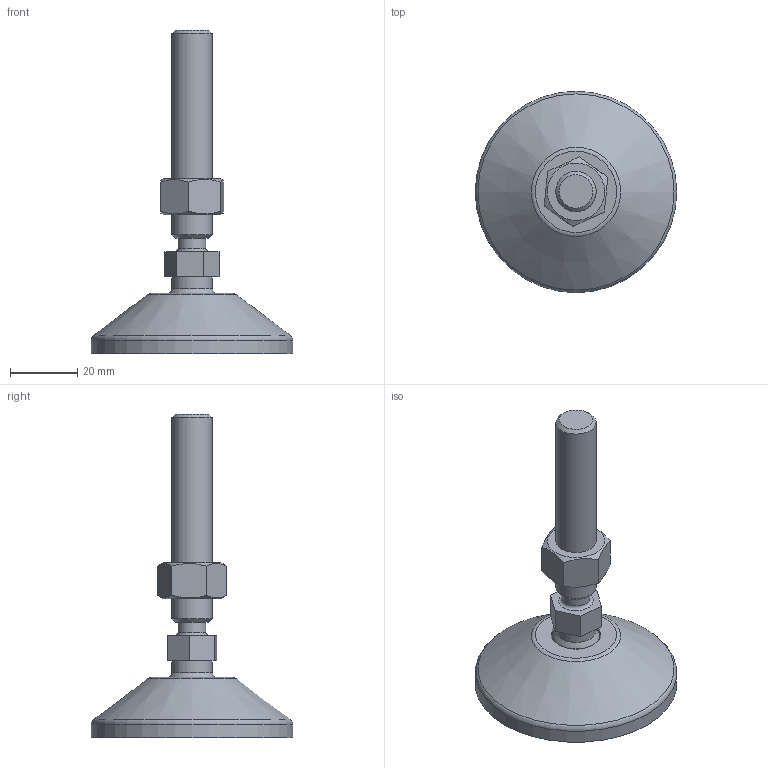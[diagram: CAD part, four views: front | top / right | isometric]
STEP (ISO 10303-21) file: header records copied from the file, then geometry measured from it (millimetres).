
FILE_DESCRIPTION(('STEP AP203'), '1');
FILE_NAME('栖闉罻', '', ('UNSPECIFIED'), ('UNSPECIFIED'), 'C3D Converter', 'C3D Toolkit', '');
FILE_SCHEMA(('CONFIG_CONTROL_DESIGN'));
Length unit declared in the file: millimetre
Products named in the file (4): A00020.112066; A00015.1060
Assembly tree (3 placements, depth 3):
  (unnamed)
    A00020.112066
      (unnamed)
    A00015.1060
Bounding box: 60 x 60 x 96.4 mm (x, y, z)
Volume: 32258.6 mm3; surface area: 14966.3 mm2
Topology: 3 solids, 3 shells, 153 faces, 404 edges, 270 vertices
Faces by surface type: plane 87, cylinder 34, torus 21, cone 9, sphere 2
Full cylindrical faces by diameter (mm): 4 x8, 8.3 x1, 10.647 x1, 12 x2, 14.3 x1, 15 x2, 15.5 x1, 50.5 x1, 60 x1
Entity records: 7831 total; most frequent: CARTESIAN_POINT 2711, DIRECTION 776, ORIENTED_EDGE 738, EDGE_CURVE 369, AXIS2_PLACEMENT_3D 312, VERTEX_POINT 269, EDGE_LOOP 202, FACE_BOUND 162
